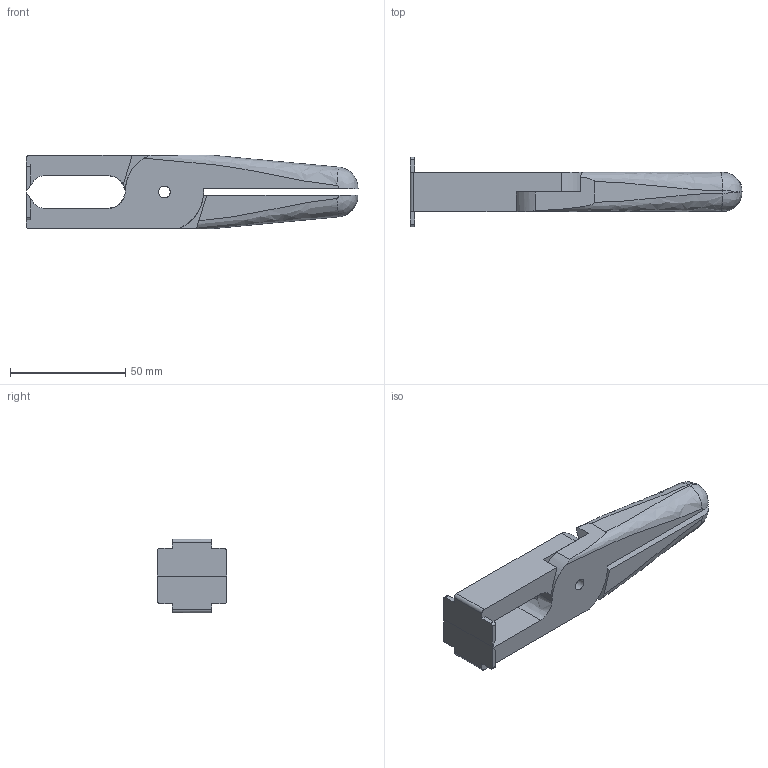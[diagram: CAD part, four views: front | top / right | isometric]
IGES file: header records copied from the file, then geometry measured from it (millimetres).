
Global section: file name: N30AEH767-2; native system: unknown; preprocessor: unknown; author: unknown; organization: unknown; date: 20210524.162732; units: millimetre
Bounding box: 144 x 30 x 32 mm (x, y, z)
Volume: 54535.6 mm3; surface area: 18990.3 mm2
Topology: 2 solids, 2 shells, 66 faces, 185 edges, 123 vertices
Faces by surface type: bspline 66
